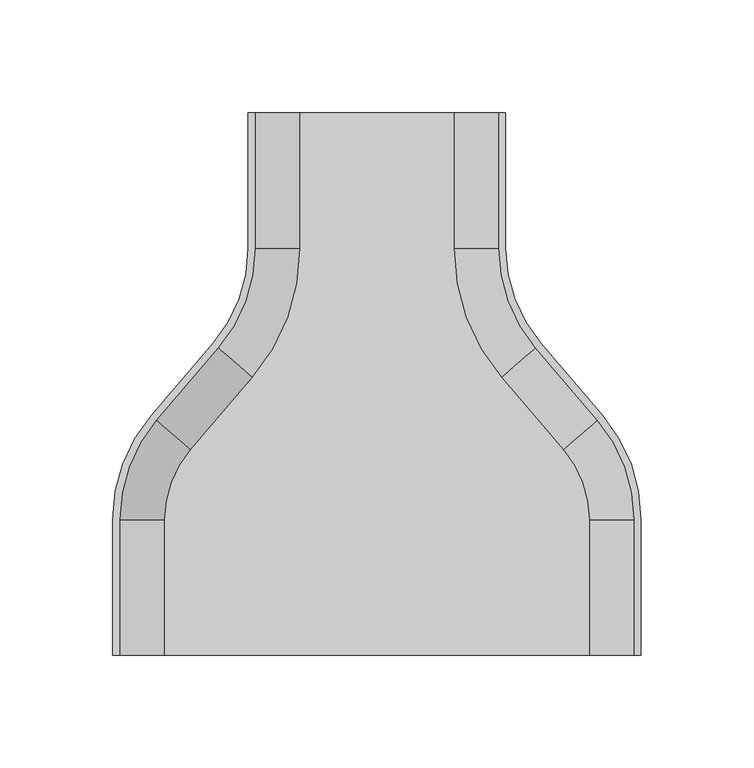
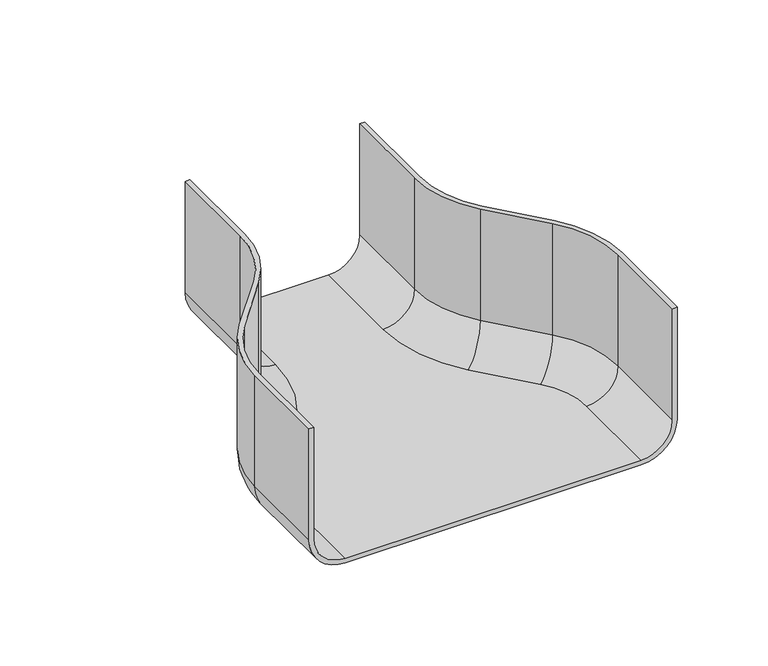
"""IFC4 building model written with IfcOpenShell, lengths in millimetres: cable carrier fitting geometry, CCT_Hyperline_FBTR-240-RDC120 Переход 240-120 для оптического лотка : Переход 240-120 для оптического лотка."""

from ifc_helpers import new_model, si_unit, point, frame, origin, place, context, project, spatial, polyline, circle_curve, ellipse_curve, trimmed, source, transform, mapped, element, save
from ifc_brep_helpers import plane_surface, cylinder_surface, revolved_surface, advanced_brep


def cable_carrier_fitting_dffab509(model_context):
    return source(origin(), model_context, "Body", "AdvancedBrep", [
        advanced_brep(
        [(57.0, 120.0, -24.92), (34.0, 120.0, -47.92), (-34.0, 120.0, -47.92), (-57.0, 120.0, -24.92), (-57.0, 120.0, 50.0), (-54.0, 120.0, 50.0), (-54.0, 120.0, -24.92), (-34.0, 120.0, -44.92), (34.0, 120.0, -44.92), (54.0, 120.0, -24.92), (54.0, 120.0, 50.0), (57.0, 120.0, 50.0), (57.0, 60.0, -24.92), (34.0, 60.0, -47.92), (55.0846523, 3.0027575, -47.92), (82.5450836, -29.0344124, -47.92), (94.0, -60.0, -47.92), (94.0, -120.0, -47.92), (-94.0, -120.0, -47.92), (-94.0, -60.0, -47.92), (-82.5450836, -29.0344124, -47.92), (-55.0846523, 3.0027575, -47.92), (-34.0, 60.0, -47.92), (-34.0, 60.0, -44.92), (-55.0846523, 3.0027575, -44.92), (-82.5450836, -29.0344124, -44.92), (-94.0, -60.0, -44.92), (-94.0, -120.0, -44.92), (94.0, -120.0, -44.92), (94.0, -60.0, -44.92), (82.5450836, -29.0344124, -44.92), (55.0846523, 3.0027575, -44.92), (34.0, 60.0, -44.92), (54.0, 60.0, -24.92), (54.0, 60.0, 50.0), (70.2697843, 16.0185849, 50.0), (97.7302157, -16.0185849, 50.0), (114.0, -60.0, 50.0), (114.0, -120.0, 50.0), (117.0, -120.0, 50.0), (117.0, -60.0, 50.0), (100.0079855, -14.0662108, 50.0), (72.5475541, 17.9709591, 50.0), (57.0, 60.0, 50.0), (114.0, -120.0, -24.92), (-114.0, -120.0, -24.92), (-114.0, -120.0, 50.0), (-117.0, -120.0, 50.0), (-117.0, -120.0, -24.92), (117.0, -120.0, -24.92), (72.5475541, 17.9709591, -24.92), (70.2697843, 16.0185849, -24.92), (100.0079855, -14.0662108, -24.92), (97.7302157, -16.0185849, -24.92), (117.0, -60.0, -24.92), (114.0, -60.0, -24.92), (-57.0, 60.0, -24.92), (-54.0, 60.0, -24.92), (-54.0, 60.0, 50.0), (-57.0, 60.0, 50.0), (-72.5475541, 17.9709591, 50.0), (-100.0079855, -14.0662108, 50.0), (-117.0, -60.0, 50.0), (-114.0, -60.0, 50.0), (-97.7302157, -16.0185849, 50.0), (-70.2697843, 16.0185849, 50.0), (-72.5475541, 17.9709591, -24.92), (-70.2697843, 16.0185849, -24.92), (-100.0079855, -14.0662108, -24.92), (-97.7302157, -16.0185849, -24.92), (-117.0, -60.0, -24.92), (-114.0, -60.0, -24.92)],
        [
            (0, 1, circle_curve(frame((34.0, 120.0, -24.92), z_axis=(0.0, 1.0, 0.0), x_axis=(1.0, 0.0, 0.0)), 23.0)),
            (1, 2),
            (2, 3, circle_curve(frame((-34.0, 120.0, -24.92), z_axis=(0.0, 1.0, 0.0), x_axis=(1.0, 0.0, 0.0)), 23.0)),
            (3, 4),
            (4, 5),
            (5, 6),
            (6, 7, circle_curve(frame((-34.0, 120.0, -24.92), z_axis=(0.0, -1.0, 0.0), x_axis=(1.0, 0.0, 0.0)), 20.0)),
            (7, 8),
            (8, 9, circle_curve(frame((34.0, 120.0, -24.92), z_axis=(0.0, -1.0, 0.0), x_axis=(1.0, 0.0, 0.0)), 20.0)),
            (9, 10),
            (10, 11),
            (11, 0),
            (0, 12),
            (12, 13, circle_curve(frame((34.0, 60.0, -24.92), z_axis=(0.0, 1.0, 0.0), x_axis=(1.0, 0.0, 0.0)), 23.0)),
            (13, 1),
            (13, 14, circle_curve(frame((121.5814352, 60.0, -47.92), z_axis=(0.0, 0.0, 1.0), x_axis=(-1.0, 0.0, 0.0)), 87.5814352)),
            (14, 15),
            (15, 16, circle_curve(frame((46.4185648, -60.0, -47.92), z_axis=(0.0, 0.0, -1.0), x_axis=(0.7592566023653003, 0.6507913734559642, 0.0)), 47.5814352)),
            (16, 17),
            (17, 18),
            (18, 19),
            (19, 20, circle_curve(frame((-46.4185648, -60.0, -47.92), z_axis=(0.0, 0.0, -1.0), x_axis=(-0.7592566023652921, 0.6507913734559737, 0.0)), 47.5814352)),
            (20, 21),
            (21, 22, circle_curve(frame((-121.5814352, 60.0, -47.92), z_axis=(0.0, 0.0, 1.0), x_axis=(1.0, 0.0, 0.0)), 87.5814352)),
            (22, 2),
            (7, 23),
            (23, 24, circle_curve(frame((-121.5814352, 60.0, -44.92), z_axis=(0.0, 0.0, -1.0), x_axis=(1.0, 0.0, 0.0)), 87.5814352)),
            (24, 25),
            (25, 26, circle_curve(frame((-46.4185648, -60.0, -44.92), z_axis=(0.0, 0.0, 1.0), x_axis=(-0.7592566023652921, 0.6507913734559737, 0.0)), 47.5814352)),
            (26, 27),
            (27, 28),
            (28, 29),
            (29, 30, circle_curve(frame((46.4185648, -60.0, -44.92), z_axis=(0.0, 0.0, 1.0), x_axis=(0.7592566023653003, 0.6507913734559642, 0.0)), 47.5814352)),
            (30, 31),
            (31, 32, circle_curve(frame((121.5814352, 60.0, -44.92), z_axis=(0.0, 0.0, -1.0), x_axis=(-1.0, 0.0, 0.0)), 87.5814352)),
            (32, 8),
            (32, 33, circle_curve(frame((34.0, 60.0, -24.92), z_axis=(0.0, -1.0, 0.0), x_axis=(1.0, 0.0, 0.0)), 20.0)),
            (33, 9),
            (33, 34),
            (34, 10),
            (34, 35, circle_curve(frame((121.5814352, 60.0, 50.0), z_axis=(0.0, 0.0, 1.0), x_axis=(-1.0, 0.0, 0.0)), 67.5814352)),
            (35, 36),
            (36, 37, circle_curve(frame((46.4185648, -60.0, 50.0), z_axis=(0.0, 0.0, -1.0), x_axis=(0.7592566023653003, 0.6507913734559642, 0.0)), 67.5814352)),
            (37, 38),
            (38, 39),
            (39, 40),
            (40, 41, circle_curve(frame((46.4185648, -60.0, 50.0), z_axis=(0.0, 0.0, 1.0), x_axis=(0.7592566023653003, 0.6507913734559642, 0.0)), 70.5814352)),
            (41, 42),
            (42, 43, circle_curve(frame((121.5814352, 60.0, 50.0), z_axis=(0.0, 0.0, -1.0), x_axis=(-1.0, 0.0, 0.0)), 64.5814352)),
            (43, 11),
            (43, 12),
            (38, 44),
            (44, 28, circle_curve(frame((94.0, -120.0, -24.92), z_axis=(0.0, 1.0, 0.0), x_axis=(1.0, 0.0, 0.0)), 20.0)),
            (27, 45, circle_curve(frame((-94.0, -120.0, -24.92), z_axis=(0.0, 1.0, 0.0), x_axis=(1.0, 0.0, 0.0)), 20.0)),
            (45, 46),
            (46, 47),
            (47, 48),
            (48, 18, circle_curve(frame((-94.0, -120.0, -24.92), z_axis=(0.0, -1.0, 0.0), x_axis=(1.0, 0.0, 0.0)), 23.0)),
            (17, 49, circle_curve(frame((94.0, -120.0, -24.92), z_axis=(0.0, -1.0, 0.0), x_axis=(1.0, 0.0, 0.0)), 23.0)),
            (49, 39),
            (12, 50, circle_curve(frame((121.5814352, 60.0, -24.92), z_axis=(0.0, 0.0, 1.0), x_axis=(-1.0, 0.0, 0.0)), 64.5814352)),
            (50, 14, circle_curve(frame((55.0846523, 3.0027575, -24.92), z_axis=(-0.6507913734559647, 0.7592566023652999, 0.0), x_axis=(0.7592566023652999, 0.6507913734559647, 0.0)), 23.0)),
            (31, 51, circle_curve(frame((55.0846523, 3.0027575, -24.92), z_axis=(0.6507913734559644, -0.7592566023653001, 0.0), x_axis=(0.7592566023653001, 0.6507913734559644, 0.0)), 20.0)),
            (51, 33, circle_curve(frame((121.5814352, 60.0, -24.92), z_axis=(0.0, 0.0, -1.0), x_axis=(-1.0, 0.0, 0.0)), 67.5814352)),
            (51, 35),
            (42, 50),
            (50, 52),
            (52, 15, circle_curve(frame((82.5450836, -29.0344124, -24.92), z_axis=(-0.6507913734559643, 0.7592566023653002, 0.0), x_axis=(0.7592566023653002, 0.6507913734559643, 0.0)), 23.0)),
            (30, 53, circle_curve(frame((82.5450836, -29.0344124, -24.92), z_axis=(0.6507913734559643, -0.7592566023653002, 0.0), x_axis=(0.7592566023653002, 0.6507913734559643, 0.0)), 20.0)),
            (53, 51),
            (53, 36),
            (41, 52),
            (52, 54, circle_curve(frame((46.4185648, -60.0, -24.92), z_axis=(0.0, 0.0, -1.0), x_axis=(0.7592566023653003, 0.6507913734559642, 0.0)), 70.5814352)),
            (54, 16, circle_curve(frame((94.0, -60.0, -24.92), z_axis=(0.0, 1.0, 0.0), x_axis=(1.0, 0.0, 0.0)), 23.0)),
            (29, 55, circle_curve(frame((94.0, -60.0, -24.92), z_axis=(0.0, -1.0, 0.0), x_axis=(1.0, 0.0, 0.0)), 20.0)),
            (55, 53, circle_curve(frame((46.4185648, -60.0, -24.92), z_axis=(0.0, 0.0, 1.0), x_axis=(0.7592566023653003, 0.6507913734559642, 0.0)), 67.5814352)),
            (55, 37),
            (40, 54),
            (54, 49),
            (44, 55),
            (22, 56, circle_curve(frame((-34.0, 60.0, -24.92), z_axis=(0.0, 1.0, 0.0), x_axis=(1.0, 0.0, 0.0)), 23.0)),
            (56, 3),
            (6, 57),
            (57, 23, circle_curve(frame((-34.0, 60.0, -24.92), z_axis=(0.0, -1.0, 0.0), x_axis=(1.0, 0.0, 0.0)), 20.0)),
            (5, 58),
            (58, 57),
            (4, 59),
            (59, 60, circle_curve(frame((-121.5814352, 60.0, 50.0), z_axis=(0.0, 0.0, -1.0), x_axis=(1.0, 0.0, 0.0)), 64.5814352)),
            (60, 61),
            (61, 62, circle_curve(frame((-46.4185648, -60.0, 50.0), z_axis=(0.0, 0.0, 1.0), x_axis=(-0.7592566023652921, 0.6507913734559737, 0.0)), 70.5814352)),
            (62, 47),
            (46, 63),
            (63, 64, circle_curve(frame((-46.4185648, -60.0, 50.0), z_axis=(0.0, 0.0, -1.0), x_axis=(-0.7592566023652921, 0.6507913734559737, 0.0)), 67.5814352)),
            (64, 65),
            (65, 58, circle_curve(frame((-121.5814352, 60.0, 50.0), z_axis=(0.0, 0.0, 1.0), x_axis=(1.0, 0.0, 0.0)), 67.5814352)),
            (56, 59),
            (21, 66, circle_curve(frame((-55.0846523, 3.0027575, -24.92), z_axis=(0.6507913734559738, 0.759256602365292, 0.0), x_axis=(0.759256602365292, -0.6507913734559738, 0.0)), 23.0)),
            (66, 56, circle_curve(frame((-121.5814352, 60.0, -24.92), z_axis=(0.0, 0.0, 1.0), x_axis=(1.0, 0.0, 0.0)), 64.5814352)),
            (57, 67, circle_curve(frame((-121.5814352, 60.0, -24.92), z_axis=(0.0, 0.0, -1.0), x_axis=(1.0, 0.0, 0.0)), 67.5814352)),
            (67, 24, circle_curve(frame((-55.0846523, 3.0027575, -24.92), z_axis=(-0.6507913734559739, -0.7592566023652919, 0.0), x_axis=(0.7592566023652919, -0.6507913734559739, 0.0)), 20.0)),
            (65, 67),
            (66, 60),
            (20, 68, circle_curve(frame((-82.5450836, -29.0344124, -24.92), z_axis=(0.6507913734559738, 0.759256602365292, 0.0), x_axis=(0.759256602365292, -0.6507913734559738, 0.0)), 23.0)),
            (68, 66),
            (67, 69),
            (69, 25, circle_curve(frame((-82.5450836, -29.0344124, -24.92), z_axis=(-0.6507913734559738, -0.759256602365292, 0.0), x_axis=(0.759256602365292, -0.6507913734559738, 0.0)), 20.0)),
            (64, 69),
            (68, 61),
            (19, 70, circle_curve(frame((-94.0, -60.0, -24.92), z_axis=(0.0, 1.0, 0.0), x_axis=(1.0, 0.0, 0.0)), 23.0)),
            (70, 68, circle_curve(frame((-46.4185648, -60.0, -24.92), z_axis=(0.0, 0.0, -1.0), x_axis=(-0.7592566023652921, 0.6507913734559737, 0.0)), 70.5814352)),
            (69, 71, circle_curve(frame((-46.4185648, -60.0, -24.92), z_axis=(0.0, 0.0, 1.0), x_axis=(-0.7592566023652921, 0.6507913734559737, 0.0)), 67.5814352)),
            (71, 26, circle_curve(frame((-94.0, -60.0, -24.92), z_axis=(0.0, -1.0, 0.0), x_axis=(1.0, 0.0, 0.0)), 20.0)),
            (63, 71),
            (70, 62),
            (48, 70),
            (71, 45),
        ],
        [
            plane_surface(frame((54.0, 120.0, 0.0), z_axis=(0.0, 1.0, 0.0), x_axis=(0.0, 0.0, 1.0))),
            cylinder_surface(frame((34.0, 120.0, -24.92), z_axis=(0.0, 1.0, 0.0), x_axis=(1.0, 0.0, 0.0)), 23.0),
            plane_surface(frame((34.0, 120.0, -47.92), z_axis=(0.0, 0.0, -1.0), x_axis=(0.0, -1.0, 0.0))),
            plane_surface(frame((0.0, 120.0, -44.92), z_axis=(0.0, 0.0, 1.0), x_axis=(0.0, -1.0, 0.0))),
            revolved_surface(polyline([(54.0, 60.0, -24.92), (54.0, 120.0, -24.92)]), (34.0, 120.0, -24.92), (0.0, -1.0, 0.0)),
            plane_surface(frame((54.0, 120.0, -24.92), z_axis=(-1.0, 0.0, 0.0), x_axis=(0.0, -1.0, 0.0))),
            plane_surface(frame((54.0, 120.0, 50.0), z_axis=(0.0, 0.0, 1.0), x_axis=(0.0, -1.0, 0.0))),
            plane_surface(frame((57.0, 120.0, 50.0), z_axis=(1.0, 0.0, 0.0), x_axis=(0.0, -1.0, 0.0))),
            plane_surface(frame((114.0, -120.0, 0.0), z_axis=(0.0, -1.0, 0.0), x_axis=(0.0, 0.0, 1.0))),
            revolved_surface(trimmed(ellipse_curve(frame((34.0, 60.0, -24.92), z_axis=(0.0, 1.0, 0.0), x_axis=(1.0, 0.0, 0.0)), 23.0, 23.0), [point((57.0, 60.0, -24.92))], [point((34.0, 60.0, -47.92))], True, "CARTESIAN"), (121.5814352, 60.0, 0.0), (0.0, 0.0, 1.0)),
            revolved_surface(trimmed(ellipse_curve(frame((34.0, 60.0, -24.92), z_axis=(0.0, -1.0, 0.0), x_axis=(1.0, 0.0, 0.0)), 20.0, 20.0), [point((34.0, 60.0, -44.92))], [point((54.0, 60.0, -24.92))], True, "CARTESIAN"), (121.5814352, 60.0, 0.0), (0.0, 0.0, 1.0)),
            cylinder_surface(frame((121.5814352, 60.0, 0.0), z_axis=(0.0, 0.0, 1.0), x_axis=(-1.0, 0.0, 0.0)), 67.5814352),
            revolved_surface(polyline([(57.0, 60.0, 50.0), (57.0, 60.0, -24.92)]), (121.5814352, 60.0, 0.0), (0.0, 0.0, 1.0)),
            cylinder_surface(frame((55.0846523, 3.0027575, -24.92), z_axis=(-0.6507913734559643, 0.7592566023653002, 0.0), x_axis=(0.7592566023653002, 0.6507913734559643, 0.0)), 23.0),
            revolved_surface(polyline([(97.73021567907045, -16.01858491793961, -24.92), (70.269784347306, 16.01858496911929, -24.92)]), (55.0846523, 3.0027575, -24.92), (0.6507913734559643, -0.7592566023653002, 0.0)),
            plane_surface(frame((70.2697843, 16.0185849, -24.92), z_axis=(-0.7592566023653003, -0.6507913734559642, 0.0), x_axis=(0.6507913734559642, -0.7592566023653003, 0.0))),
            plane_surface(frame((72.5475541, 17.9709591, 50.0), z_axis=(0.7592566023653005, 0.650791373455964, 0.0), x_axis=(0.650791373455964, -0.7592566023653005, 0.0))),
            revolved_surface(trimmed(ellipse_curve(frame((82.5450836, -29.0344124, -24.92), z_axis=(-0.650791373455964, 0.7592566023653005, 0.0), x_axis=(0.7592566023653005, 0.650791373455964, 0.0)), 23.0, 23.0), [point((100.0079855, -14.0662108, -24.92))], [point((82.5450836, -29.0344124, -47.92))], True, "CARTESIAN"), (46.4185648, -60.0, 0.0), (0.0, 0.0, -1.0)),
            revolved_surface(trimmed(ellipse_curve(frame((82.5450836, -29.0344124, -24.92), z_axis=(0.650791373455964, -0.7592566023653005, 0.0), x_axis=(0.7592566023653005, 0.650791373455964, 0.0)), 20.0, 20.0), [point((82.5450836, -29.0344124, -44.92))], [point((97.7302157, -16.0185849, -24.92))], True, "CARTESIAN"), (46.4185648, -60.0, 0.0), (0.0, 0.0, -1.0)),
            revolved_surface(polyline([(97.73021567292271, -16.018584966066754, -24.92), (97.73021567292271, -16.018584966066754, 50.0)]), (46.4185648, -60.0, 0.0), (0.0, 0.0, -1.0)),
            cylinder_surface(frame((46.4185648, -60.0, 0.0), z_axis=(0.0, 0.0, -1.0), x_axis=(0.7592566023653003, 0.6507913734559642, 0.0)), 70.5814352),
            cylinder_surface(frame((94.0, -60.0, -24.92), z_axis=(0.0, 1.0, 0.0), x_axis=(1.0, 0.0, 0.0)), 23.0),
            revolved_surface(polyline([(114.0, -120.0, -24.92), (114.0, -60.0, -24.92)]), (94.0, -60.0, -24.92), (0.0, -1.0, 0.0)),
            plane_surface(frame((114.0, -60.0, -24.92), z_axis=(-1.0, 0.0, 0.0), x_axis=(0.0, -1.0, 0.0))),
            plane_surface(frame((117.0, -60.0, 50.0), z_axis=(1.0, 0.0, 0.0), x_axis=(0.0, -1.0, 0.0))),
            cylinder_surface(frame((-34.0, 120.0, -24.92), z_axis=(0.0, 1.0, 0.0), x_axis=(1.0, 0.0, 0.0)), 23.0),
            revolved_surface(polyline([(-14.0, 60.0, -24.92), (-14.0, 120.0, -24.92)]), (-34.0, 120.0, -24.92), (0.0, -1.0, 0.0)),
            plane_surface(frame((-54.0, 120.0, 50.0), z_axis=(1.0, 0.0, 0.0), x_axis=(0.0, -1.0, 0.0))),
            plane_surface(frame((-57.0, 120.0, 50.0), z_axis=(0.0, 0.0, 1.0), x_axis=(0.0, -1.0, 0.0))),
            plane_surface(frame((-57.0, 120.0, -24.92), z_axis=(-1.0, 0.0, 0.0), x_axis=(0.0, -1.0, 0.0))),
            revolved_surface(trimmed(ellipse_curve(frame((-34.0, 60.0, -24.92), z_axis=(0.0, 1.0, 0.0), x_axis=(1.0, 0.0, 0.0)), 23.0, 23.0), [point((-34.0, 60.0, -47.92))], [point((-57.0, 60.0, -24.92))], True, "CARTESIAN"), (-121.5814352, 60.0, 0.0), (0.0, 0.0, -1.0)),
            revolved_surface(trimmed(ellipse_curve(frame((-34.0, 60.0, -24.92), z_axis=(0.0, -1.0, 0.0), x_axis=(1.0, 0.0, 0.0)), 20.0, 20.0), [point((-54.0, 60.0, -24.92))], [point((-34.0, 60.0, -44.92))], True, "CARTESIAN"), (-121.5814352, 60.0, 0.0), (0.0, 0.0, -1.0)),
            cylinder_surface(frame((-121.5814352, 60.0, 0.0), z_axis=(0.0, 0.0, -1.0), x_axis=(1.0, 0.0, 0.0)), 67.5814352),
            revolved_surface(polyline([(-57.0, 60.0, -24.92), (-57.0, 60.0, 50.0)]), (-121.5814352, 60.0, 0.0), (0.0, 0.0, -1.0)),
            cylinder_surface(frame((-55.0846523, 3.0027575, -24.92), z_axis=(0.6507913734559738, 0.759256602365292, 0.0), x_axis=(0.759256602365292, -0.6507913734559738, 0.0)), 23.0),
            revolved_surface(polyline([(-67.35995158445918, -42.050239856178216, -24.92), (-39.89952025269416, -10.013069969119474, -24.92)]), (-55.0846523, 3.0027575, -24.92), (-0.6507913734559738, -0.759256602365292, 0.0)),
            plane_surface(frame((-70.2697843, 16.0185849, 50.0), z_axis=(0.7592566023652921, -0.6507913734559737, 0.0), x_axis=(-0.6507913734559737, -0.7592566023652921, 0.0))),
            plane_surface(frame((-72.5475541, 17.9709591, -24.92), z_axis=(-0.7592566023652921, 0.6507913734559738, 0.0), x_axis=(-0.6507913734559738, -0.7592566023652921, 0.0))),
            revolved_surface(trimmed(ellipse_curve(frame((-82.5450836, -29.0344124, -24.92), z_axis=(0.6507913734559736, 0.7592566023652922, 0.0), x_axis=(0.7592566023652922, -0.6507913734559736, 0.0)), 23.0, 23.0), [point((-82.5450836, -29.0344124, -47.92))], [point((-100.0079855, -14.0662108, -24.92))], True, "CARTESIAN"), (-46.4185648, -60.0, 0.0), (0.0, 0.0, 1.0)),
            revolved_surface(trimmed(ellipse_curve(frame((-82.5450836, -29.0344124, -24.92), z_axis=(-0.6507913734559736, -0.7592566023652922, 0.0), x_axis=(0.7592566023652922, -0.6507913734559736, 0.0)), 20.0, 20.0), [point((-97.7302157, -16.0185849, -24.92))], [point((-82.5450836, -29.0344124, -44.92))], True, "CARTESIAN"), (-46.4185648, -60.0, 0.0), (0.0, 0.0, 1.0)),
            revolved_surface(polyline([(-97.73021567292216, -16.018584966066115, 50.0), (-97.73021567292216, -16.018584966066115, -24.92)]), (-46.4185648, -60.0, 0.0), (0.0, 0.0, 1.0)),
            cylinder_surface(frame((-46.4185648, -60.0, 0.0), z_axis=(0.0, 0.0, 1.0), x_axis=(-0.7592566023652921, 0.6507913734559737, 0.0)), 70.5814352),
            cylinder_surface(frame((-94.0, -60.0, -24.92), z_axis=(0.0, 1.0, 0.0), x_axis=(1.0, 0.0, 0.0)), 23.0),
            revolved_surface(polyline([(-74.0, -120.0, -24.92), (-74.0, -60.0, -24.92)]), (-94.0, -60.0, -24.92), (0.0, -1.0, 0.0)),
            plane_surface(frame((-114.0, -60.0, 50.0), z_axis=(1.0, 0.0, 0.0), x_axis=(0.0, -1.0, 0.0))),
            plane_surface(frame((-117.0, -60.0, -24.92), z_axis=(-1.0, 0.0, 0.0), x_axis=(0.0, -1.0, 0.0))),
        ],
        [
            (0, [[1, 2, 3, 4, 5, 6, 7, 8, 9, 10, 11, 12]]),
            (1, [[-1, 13, 14, 15]]),
            (2, [[-2, -15, 16, 17, 18, 19, 20, 21, 22, 23, 24, 25]]),
            (3, [[-8, 26, 27, 28, 29, 30, 31, 32, 33, 34, 35, 36]]),
            (4, [[-9, -36, 37, 38]]),
            (5, [[-10, -38, 39, 40]]),
            (6, [[-11, -40, 41, 42, 43, 44, 45, 46, 47, 48, 49, 50]]),
            (7, [[-12, -50, 51, -13]]),
            (8, [[-45, 52, 53, -31, 54, 55, 56, 57, 58, -20, 59, 60]]),
            (9, [[-14, 61, 62, -16]]),
            (10, [[-35, 63, 64, -37]]),
            (11, [[-39, -64, 65, -41]]),
            (12, [[-49, 66, -61, -51]]),
            (13, [[-17, -62, 67, 68]]),
            (14, [[-34, 69, 70, -63]]),
            (15, [[-42, -65, -70, 71]]),
            (16, [[-48, 72, -67, -66]]),
            (17, [[-18, -68, 73, 74]]),
            (18, [[-33, 75, 76, -69]]),
            (19, [[-43, -71, -76, 77]]),
            (20, [[-47, 78, -73, -72]]),
            (21, [[-19, -74, 79, -59]]),
            (22, [[-32, -53, 80, -75]]),
            (23, [[-44, -77, -80, -52]]),
            (24, [[-46, -60, -79, -78]]),
            (25, [[-3, -25, 81, 82]]),
            (26, [[-7, 83, 84, -26]]),
            (27, [[-6, 85, 86, -83]]),
            (28, [[-5, 87, 88, 89, 90, 91, -56, 92, 93, 94, 95, -85]]),
            (29, [[-4, -82, 96, -87]]),
            (30, [[-81, -24, 97, 98]]),
            (31, [[-27, -84, 99, 100]]),
            (32, [[-86, -95, 101, -99]]),
            (33, [[-88, -96, -98, 102]]),
            (34, [[-23, 103, 104, -97]]),
            (35, [[-28, -100, 105, 106]]),
            (36, [[-94, 107, -105, -101]]),
            (37, [[-89, -102, -104, 108]]),
            (38, [[-22, 109, 110, -103]]),
            (39, [[-29, -106, 111, 112]]),
            (40, [[-93, 113, -111, -107]]),
            (41, [[-90, -108, -110, 114]]),
            (42, [[-21, -58, 115, -109]]),
            (43, [[-30, -112, 116, -54]]),
            (44, [[-92, -55, -116, -113]]),
            (45, [[-91, -114, -115, -57]]),
        ],
    ),
    ])


if __name__ == "__main__":
    model = new_model("IFC4")
    model_context = context("Model", 3, world=origin())
    ifc_project = project(units=[si_unit("LENGTHUNIT", "METRE", prefix="MILLI")], contexts=[model_context])
    site = spatial("IfcSite", under=ifc_project)
    building = spatial("IfcBuilding", under=site)
    placement = place(None, origin())
    cable_carrier_fitting_shape = cable_carrier_fitting_dffab509(model_context)
    element("IfcCableCarrierFitting", 1, ObjectType="CCT_Hyperline_FBTR-240-RDC120 Переход 240-120 для оптического лотка : Переход 240-120 для оптического лотка", at=placement, inside=building, context=model_context, shape_type="MappedRepresentation", body=[
        mapped(cable_carrier_fitting_shape, transform((0.0, 0.0, 0.0), x_axis=(1.0, 0.0, 0.0), y_axis=(0.0, 1.0, 0.0), z_axis=(0.0, 0.0, 1.0))),
    ])
    save(model, "model.ifc")
